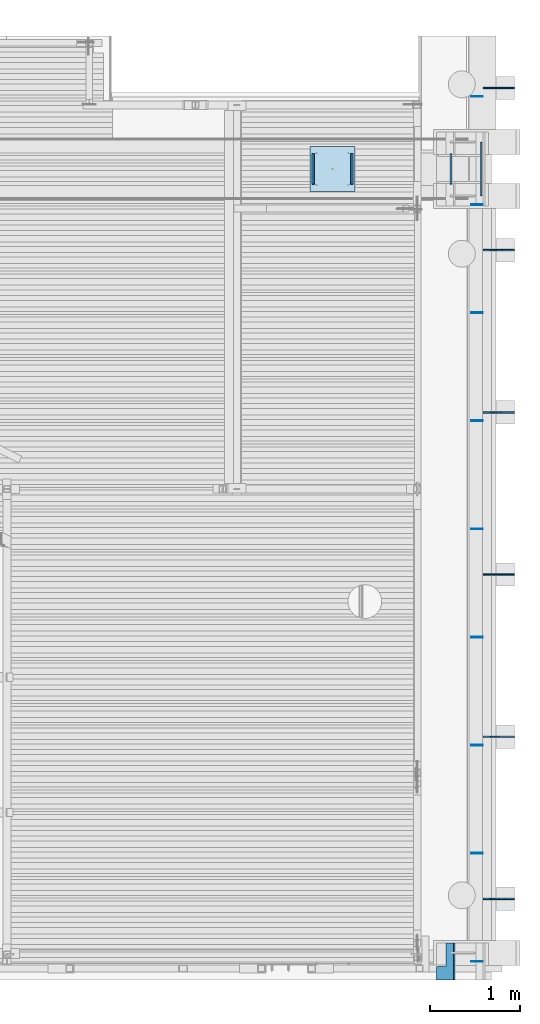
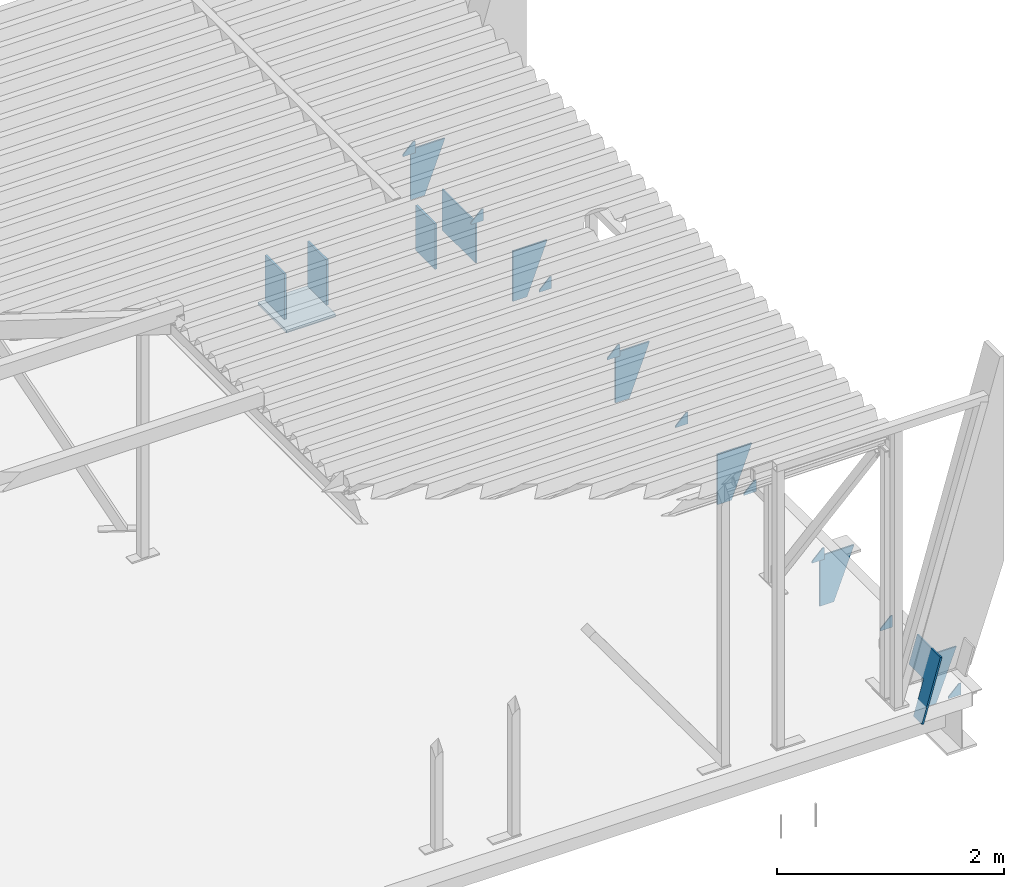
# One storey, part 30 of 30: 21 plates.
"""IFC2X3 building model written with IfcOpenShell, lengths in millimetres."""

import ifcopenshell
import ifcopenshell.guid

model = None  # the IFC model being written
_history = None  # IfcOwnerHistory: only IFC2X3 demands one
_inside = {}  # id of a spatial element -> (the spatial element, [elements in it])
_under = {}  # id of a project, library or spatial element -> (it, [spatial elements below it])
_declared = {}  # id of a project -> (the project, [libraries it declares])
_typed = {}  # id of a type object -> (the type object, [elements of that type])
_made_of = {}  # id of a material, layer set ... -> (it, [elements and type objects made of it])


def new_model(schema):
    """Start an empty IFC model of exactly this schema.

    Asked for "IFC4X3", IfcOpenShell would pick the latest addendum, in which some entities
    have other attributes; the version numbers below select the first issue.
    IFC2X3 requires an IfcOwnerHistory on every rooted entity: one is made here for all.
    """
    global model, _history
    if schema == "IFC4X3":
        model = ifcopenshell.file(schema_version=(4, 3, 0, 0))
    else:
        model = ifcopenshell.file(schema=schema)
    _inside.clear()
    _under.clear()
    _declared.clear()
    _typed.clear()
    _made_of.clear()
    _history = None
    if model.schema == "IFC2X3":
        org = make("IfcOrganization", Name="unknown")
        user = make(
            "IfcPersonAndOrganization",
            ThePerson=make("IfcPerson", FamilyName="unknown"),
            TheOrganization=org,
        )
        app = make(
            "IfcApplication",
            ApplicationDeveloper=org,
            Version="unknown",
            ApplicationFullName="unknown",
            ApplicationIdentifier="unknown",
        )
        _history = make(
            "IfcOwnerHistory",
            OwningUser=user,
            OwningApplication=app,
            ChangeAction="ADDED",
            CreationDate=0,
        )
    return model


def make(cls, **values):
    """One entity of the class cls with the attributes given. An attribute that is None is left unset."""
    return model.create_entity(
        cls, **{name: value for name, value in values.items() if value is not None}
    )


def entity(cls, *values):
    """Any entity or typed value of the class cls, its attributes in the order of the schema. None: left unset."""
    e = model.create_entity(cls)
    for i, value in enumerate(values):
        if value is not None:
            e[i] = value
    return e


def rooted(cls, **values):
    """An entity with a GlobalId (a new one), such as an element, a storey or a relation."""
    return make(cls, GlobalId=ifcopenshell.guid.new(), OwnerHistory=_history, **values)


def si_unit(unit_type, name, prefix=None):
    """IfcSIUnit, for example si_unit("LENGTHUNIT", "METRE", prefix="MILLI")."""
    return make("IfcSIUnit", UnitType=unit_type, Prefix=prefix, Name=name)


def converted_unit(unit_type, name, factor, base, dimensions=None, offset=None):
    """IfcConversionBasedUnit, such as the inch: factor (a typed value) times the base unit."""
    return make(
        "IfcConversionBasedUnit"
        if offset is None
        else "IfcConversionBasedUnitWithOffset",
        ConversionOffset=offset,
        Dimensions=None
        if dimensions is None
        else entity("IfcDimensionalExponents", *dimensions),
        UnitType=unit_type,
        Name=name,
        ConversionFactor=make(
            "IfcMeasureWithUnit", ValueComponent=factor, UnitComponent=base
        ),
    )


def derived_unit(unit_type, elements):
    """IfcDerivedUnit: a product of units, each with its exponent."""
    return make(
        "IfcDerivedUnit",
        Elements=[
            make("IfcDerivedUnitElement", Unit=unit, Exponent=power)
            for unit, power in elements
        ],
        UnitType=unit_type,
    )


def assignment(units):
    """IfcUnitAssignment: the units of a project."""
    return None if units is None else make("IfcUnitAssignment", Units=units)


def point(xyz):
    """IfcCartesianPoint."""
    return None if xyz is None else make("IfcCartesianPoint", Coordinates=xyz)


def direction(xyz):
    """IfcDirection."""
    return None if xyz is None else make("IfcDirection", DirectionRatios=xyz)


def frame(location, z_axis=None, x_axis=None):
    """IfcAxis2Placement3D, a coordinate frame: its origin and axes. An axis left out is left unset."""
    return make(
        "IfcAxis2Placement3D",
        Location=point(location),
        Axis=direction(z_axis),
        RefDirection=direction(x_axis),
    )


def origin_with_axes():
    """The frame at (0, 0, 0) with the z axis (0, 0, 1) and the x axis (1, 0, 0) written out."""
    return frame((0.0, 0.0, 0.0), z_axis=(0.0, 0.0, 1.0), x_axis=(1.0, 0.0, 0.0))


def place(relative_to, where):
    """IfcLocalPlacement: puts the frame where relative to a parent placement (None: the world)."""
    return make(
        "IfcLocalPlacement", PlacementRelTo=relative_to, RelativePlacement=where
    )


def context(
    kind, dimensions, precision=None, world=None, true_north=None, identifier=None
):
    """IfcGeometricRepresentationContext, for example the 3D "Model" context."""
    return make(
        "IfcGeometricRepresentationContext",
        ContextIdentifier=identifier,
        ContextType=kind,
        CoordinateSpaceDimension=dimensions,
        Precision=precision,
        WorldCoordinateSystem=world,
        TrueNorth=true_north,
    )


def subcontext(parent, identifier, kind, view, scale=None):
    """IfcGeometricRepresentationSubContext, for example "Body" below "Model"."""
    return make(
        "IfcGeometricRepresentationSubContext",
        ContextIdentifier=identifier,
        ContextType=kind,
        ParentContext=parent,
        TargetScale=scale,
        TargetView=view,
    )


def project(units=None, contexts=None):
    """IfcProject with its units and contexts."""
    return rooted(
        "IfcProject",
        Name="project",
        RepresentationContexts=contexts,
        UnitsInContext=assignment(units),
    )


def spatial(cls, under=None, at=None, **own):
    """A site, building, storey or space (cls), placed at a placement, below another one or the project."""
    s = rooted(cls, ObjectPlacement=at, **own)
    if under is not None:
        _under.setdefault(under.id(), (under, []))[1].append(s)
    return s


def faces_of(points, faces, orient=None, outer=None):
    """IfcFace entities. A face is a list of loops; a loop is a list of indices into points, from 0.

    orient and outer hold one flag for each loop. By default every Orientation is true, the
    first loop of a face is its IfcFaceOuterBound and the others are IfcFaceBound.
    """
    made = []
    for i, loops in enumerate(faces):
        bounds = []
        for j, loop in enumerate(loops):
            is_outer = j == 0 if outer is None else outer[i][j]
            bounds.append(
                make(
                    "IfcFaceOuterBound" if is_outer else "IfcFaceBound",
                    Bound=make("IfcPolyLoop", Polygon=[points[k] for k in loop]),
                    Orientation=True if orient is None else orient[i][j],
                )
            )
        made.append(make("IfcFace", Bounds=bounds))
    return made


def faceted_brep(points, faces, orient=None, outer=None, voids=None):
    """IfcFacetedBrep: a solid bounded by flat faces; with voids (closed shells), ...WithVoids."""
    shared = [point(p) for p in points]
    hull = make("IfcClosedShell", CfsFaces=faces_of(shared, faces, orient, outer))
    if voids is None:
        return make("IfcFacetedBrep", Outer=hull)
    return make(
        "IfcFacetedBrepWithVoids",
        Outer=hull,
        Voids=[
            make(cls, CfsFaces=faces_of(shared, fs, o, b)) for cls, fs, o, b in voids
        ],
    )


def shape(context_of_items, identifier, shape_type, items):
    """IfcShapeRepresentation: the items that make up one representation, for example the "Body"."""
    return make(
        "IfcShapeRepresentation",
        ContextOfItems=context_of_items,
        RepresentationIdentifier=identifier,
        RepresentationType=shape_type,
        Items=items,
    )


def material(Name=None, Category=None):
    """IfcMaterial."""
    return make("IfcMaterial", Name=Name, Category=Category)


def made_of(thing, what):
    """Note that an element or type object is made of a material, layer set ...; save() writes the relation."""
    if what is not None:
        _made_of.setdefault(what.id(), (what, []))[1].append(thing)
    return thing


def type_object(cls, material=None, **own):
    """A type object (cls), such as IfcWallType, which elements share."""
    return made_of(rooted(cls, **own), material)


def element(
    cls,
    number,
    at=None,
    inside=None,
    cuts=None,
    type_object=None,
    material=None,
    context=None,
    identifier="Body",
    shape_type=None,
    held_by="IfcProductDefinitionShape",
    body=None,
    shapes=None,
    **own,
):
    """One element of the class cls, such as IfcWall. Its Tag is "e" and its number.

    at: its placement. inside: the storey or other place that contains it. cuts: it is an
    opening in that element (IfcRelVoidsElement). A single representation is given by context,
    identifier, shape_type and body (its items); several are given by shapes. held_by: the class
    of the entity that holds the representations. save() writes the other relations.
    """
    e = rooted(cls, Tag="e%d" % number, ObjectPlacement=at, **own)
    if body is not None:
        shapes = [shape(context, identifier, shape_type, body)]
    if shapes is not None:
        e.Representation = make(held_by, Representations=shapes)
    if inside is not None:
        _inside.setdefault(inside.id(), (inside, []))[1].append(e)
    if cuts is not None:
        rooted(
            "IfcRelVoidsElement", RelatingBuildingElement=cuts, RelatedOpeningElement=e
        )
    if type_object is not None:
        _typed.setdefault(type_object.id(), (type_object, []))[1].append(e)
    return made_of(e, material)


def aggregate(whole, parts):
    """IfcRelAggregates: a whole, such as a stair, and the parts it consists of."""
    return rooted("IfcRelAggregates", RelatingObject=whole, RelatedObjects=parts)


def save(model, path):
    """Write the relations noted so far, then the file.

    IfcRelAggregates (storeys below a building ...), IfcRelContainedInSpatialStructure (elements
    in a storey), IfcRelDefinesByType, IfcRelAssociatesMaterial and IfcRelDeclares: one each for
    every whole, place, type object, material and project.
    """
    for whole, parts in _under.values():
        aggregate(whole, parts)
    for where, things in _inside.values():
        rooted(
            "IfcRelContainedInSpatialStructure",
            RelatedElements=things,
            RelatingStructure=where,
        )
    for kind, things in _typed.values():
        rooted("IfcRelDefinesByType", RelatedObjects=things, RelatingType=kind)
    for what, things in _made_of.values():
        rooted("IfcRelAssociatesMaterial", RelatedObjects=things, RelatingMaterial=what)
    for by, libraries in _declared.values():
        rooted("IfcRelDeclares", RelatingContext=by, RelatedDefinitions=libraries)
    model.write(path)


model = new_model("IFC2X3")

# Units and contexts
model_context = context("Model", 3, precision=0.01, world=frame((0.0, 4.29681676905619e-09, 0.0)), true_north=direction((4.01073788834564e-13, 1.0)))
plan_context = context("Plan", 3, precision=0.01, world=frame((0.0, 4.29681676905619e-09, 0.0)), true_north=direction((4.01073788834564e-13, 1.0)))
body_context = subcontext(model_context, "Body", "Model", "MODEL_VIEW")
ifc_project = project(units=[converted_unit("PLANEANGLEUNIT", "DEGREE", entity("IfcPositiveLengthMeasure", 0.0174532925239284), si_unit("PLANEANGLEUNIT", "RADIAN"), dimensions=[0, 0, 0, 0, 0, 0, 0]), si_unit("AREAUNIT", "SQUARE_METRE"), si_unit("LENGTHUNIT", "METRE", prefix="MILLI"), si_unit("MASSUNIT", "GRAM", prefix="KILO"), si_unit("POWERUNIT", "WATT"), si_unit("PRESSUREUNIT", "PASCAL"), si_unit("FORCEUNIT", "NEWTON", prefix="KILO"), si_unit("ELECTRICVOLTAGEUNIT", "VOLT"), si_unit("ELECTRICCURRENTUNIT", "AMPERE"), si_unit("THERMODYNAMICTEMPERATUREUNIT", "DEGREE_CELSIUS"), si_unit("TIMEUNIT", "SECOND"), si_unit("VOLUMEUNIT", "CUBIC_METRE"), derived_unit("LINEARVELOCITYUNIT", [(si_unit("LENGTHUNIT", "METRE"), 1), (si_unit("TIMEUNIT", "SECOND"), -1)]), derived_unit("VOLUMETRICFLOWRATEUNIT", [(si_unit("VOLUMEUNIT", "CUBIC_METRE"), 1), (si_unit("TIMEUNIT", "SECOND"), -1)]), derived_unit("THERMALTRANSMITTANCEUNIT", [(si_unit("POWERUNIT", "WATT"), 1), (si_unit("THERMODYNAMICTEMPERATUREUNIT", "KELVIN"), -1), (si_unit("AREAUNIT", "SQUARE_METRE"), -1)]), derived_unit("SOUNDPRESSUREUNIT", [(si_unit("PRESSUREUNIT", "PASCAL"), 1)])], contexts=[model_context, plan_context])

# Site, building, storey
site_placement = place(None, frame((0.0, -4.29681676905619e-09, 0.0), z_axis=(0.0, 0.0, 1.0), x_axis=(1.0, 0.0, 0.0)))
site = spatial("IfcSite", under=ifc_project, at=site_placement, Name="Gardermoen", CompositionType="ELEMENT")
building_placement = place(site_placement, frame((0.0, 4.29681676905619e-09, 0.0), z_axis=(0.0, 0.0, 1.0), x_axis=(1.0, 0.0, 0.0)))
building = spatial("IfcBuilding", under=site, at=building_placement, Name="TI", CompositionType="ELEMENT")
storey_placement = place(building_placement, origin_with_axes())
storey = spatial("IfcBuildingStorey", under=building, at=storey_placement, Name="F", CompositionType="ELEMENT", Elevation=0.0)

# Plates
plate_type_1 = type_object("IfcPlateType", Name="PL20*683", PredefinedType="NOTDEFINED")
plate_1_placement = place(storey_placement, frame((611700.659906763, 689409.760836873, 211314.494570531), z_axis=(-0.276515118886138, 0.0, -0.961009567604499), x_axis=(0.0, -1.0, 0.0)))
element("IfcPlate", 1, at=plate_1_placement, inside=storey, type_object=plate_type_1, Name="STÅLSØYLE", ObjectType="PL20*683", context=body_context, shape_type="Brep", body=[
    faceted_brep([(0.0, 10.0, -1.16415321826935e-10), (0.100000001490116, 9.99999999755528, 302.680480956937), (0.100000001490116, -10.0000000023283, 302.680480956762), (0.0, -10.0, -1.16415321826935e-10), (260.0, 9.99999999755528, 302.680480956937), (260.0, -10.0000000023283, 302.680480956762), (260.0, 10.0000000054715, 683.373901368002), (260.0, -9.9999999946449, 683.373901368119), (409.760836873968, 10.0000000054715, 683.373901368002), (409.760836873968, -9.9999999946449, 683.373901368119), (409.760836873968, -10.0000000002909, -6.55133282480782e-11), (409.760836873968, 10.0000000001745, -6.55133282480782e-11)], [[[0, 1, 2, 3]], [[1, 4, 5, 2]], [[4, 6, 7, 5]], [[8, 9, 7, 6]], [[10, 11, 0, 3]], [[11, 8, 6, 4, 1, 0]], [[9, 10, 3, 2, 5, 7]], [[11, 10, 9, 8]]], orient=[[False], [False], [False], [False], [False], [False], [False], [False]]),
])
ifc_material = material(Name="STEEL/S355")
plate_type_2 = type_object("IfcPlateType", Name="PL15*350", PredefinedType="NOTDEFINED")
for number, where, z_axis, x_axis in (
    (2, (612165.0, 698899.957275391, 210115.0), (0.0, 0.0, 1.0), (-0.999999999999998, 5.80000057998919e-08, 0.0)),
    (3, (612165.0, 697100.030517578, 210115.0), (0.0, 0.0, 1.0), (-0.999999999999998, 5.80000057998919e-08, 0.0)),
    (4, (612165.0, 695299.974060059, 210115.0), (0.0, 0.0, 1.0), (-0.999999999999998, 5.80000057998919e-08, 0.0)),
    (5, (612165.0, 693500.047302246, 210115.0), (0.0, 0.0, 1.0), (-0.999999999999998, 5.80000057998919e-08, 0.0)),
    (6, (612165.0, 691699.998474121, 210115.0), (0.0, 0.0, 1.0), (-0.999999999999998, 5.80000057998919e-08, 0.0)),
    (7, (612165.0, 689899.949645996, 210115.0), (0.0, 0.0, 1.0), (-0.999999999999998, 5.80000057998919e-08, 0.0)),
):
    element("IfcPlate", number, at=place(storey_placement, frame(where, z_axis=z_axis, x_axis=x_axis)), inside=storey, type_object=plate_type_2, material=ifc_material, Name="STÅLBJELKE", ObjectType="PL15*350", context=body_context, shape_type="Brep", body=[
        faceted_brep([(0.0, -7.5, 0.0), (-206.026977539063, -7.5, 540.002197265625), (-206.026977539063, 7.5, 540.002197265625), (0.0, 7.5, 0.0), (143.5, -7.5, 540.0), (143.5, 7.5, 540.0), (143.5, -7.5, 0.0), (143.5, 7.5, 0.0)], [[[0, 1, 2, 3]], [[1, 4, 5, 2]], [[4, 6, 7, 5]], [[6, 0, 3, 7]], [[5, 7, 3, 2]], [[6, 4, 1, 0]]]),
    ])
plate_type_3 = type_object("IfcPlateType", Name="PL10*125", PredefinedType="NOTDEFINED")
for number, where, z_axis, x_axis in (
    (8, (611889.999766, 689204.98, 210700.0), (1.0, 0.0, 0.0), (0.0, 0.0, -1.0)),
    (9, (611889.999766, 690404.98, 210700.0), (1.0, 0.0, 0.0), (0.0, 0.0, -1.0)),
    (10, (611889.999766, 691604.98, 210700.0), (1.0, 0.0, 0.0), (0.0, 0.0, -1.0)),
    (11, (611889.999766, 692804.98, 210700.0), (1.0, 0.0, 0.0), (0.0, 0.0, -1.0)),
    (12, (611889.999766, 694004.98, 210700.0), (1.0, 0.0, 0.0), (0.0, 0.0, -1.0)),
    (13, (611889.999766, 695204.98, 210700.0), (1.0, 0.0, 0.0), (0.0, 0.0, -1.0)),
    (14, (611889.999766, 696404.98, 210700.0), (1.0, 0.0, 0.0), (0.0, 0.0, -1.0)),
    (15, (611889.999766, 697604.98, 210700.0), (1.0, 0.0, 0.0), (0.0, 0.0, -1.0)),
    (16, (611889.999766, 698804.98, 210700.0), (1.0, 0.0, 0.0), (0.0, 0.0, -1.0)),
):
    element("IfcPlate", number, at=place(storey_placement, frame(where, z_axis=z_axis, x_axis=x_axis)), inside=storey, type_object=plate_type_3, material=ifc_material, Name="STÅLBJELKE", ObjectType="PL10*125", context=body_context, shape_type="Brep", body=[
        faceted_brep([(0.0, -5.0, 0.0), (-105.000000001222, -5.0, 105.000244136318), (-105.000000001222, 5.0, 105.000244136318), (0.0, 5.0, 0.0), (-105.000000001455, -5.0, 125.001541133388), (-105.000000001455, 5.0, 125.001541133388), (19.9999980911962, -5.0, 125.002502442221), (19.9999980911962, 5.0, 125.002502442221), (19.9999999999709, -5.0, -6.98491930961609e-10), (19.9999999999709, 5.0, -5.82076609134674e-10)], [[[0, 1, 2, 3]], [[1, 4, 5, 2]], [[4, 6, 7, 5]], [[6, 8, 9, 7]], [[8, 0, 3, 9]], [[5, 7, 9, 3, 2]], [[8, 6, 4, 1, 0]]]),
    ])
plate_type_4 = type_object("IfcPlateType", Name="PL15*440", PredefinedType="NOTDEFINED")
plate_2_placement = place(storey_placement, frame((612001.000061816, 697704.999866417, 210165.0), z_axis=(0.0, 0.0, 1.0), x_axis=(0.0, 1.0, 0.0)))
element("IfcPlate", 17, at=plate_2_placement, inside=storey, type_object=plate_type_4, material=ifc_material, Name="STÅLBJELKE", ObjectType="PL15*440", context=body_context, shape_type="Brep", body=[
    faceted_brep([(0.0, -7.5, 0.0), (-4.65661287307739e-10, -7.49999999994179, 440.0), (1.16415321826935e-10, 7.49999999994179, 440.0), (0.0, 7.5, 0.0), (590.0, -7.5, 440.0), (590.0, 7.5, 440.0), (590.0, -7.5, 0.0), (590.0, 7.5, 0.0)], [[[0, 1, 2, 3]], [[1, 4, 5, 2]], [[4, 6, 7, 5]], [[6, 0, 3, 7]], [[5, 7, 3, 2]], [[6, 4, 1, 0]]]),
])
plate_type_5 = type_object("IfcPlateType", Name="PL20*340", PredefinedType="NOTDEFINED")
for number, where, z_axis, x_axis in (
    (18, (610135.0, 697829.995625, 210140.0), (0.0, 0.0, 1.0), (0.0, 1.0, 0.0)),
    (19, (610565.0, 697829.995625, 210140.0), (0.0, 0.0, 1.0), (0.0, 1.0, 0.0)),
    (20, (611665.0, 697829.995625, 210140.0), (0.0, 0.0, 1.0), (0.0, 1.0, 0.0)),
):
    element("IfcPlate", number, at=place(storey_placement, frame(where, z_axis=z_axis, x_axis=x_axis)), inside=storey, type_object=plate_type_5, material=ifc_material, Name="STÅLBJELKE", ObjectType="PL20*340", context=body_context, shape_type="Brep", body=[
        faceted_brep([(0.0, -10.0, -1.16415321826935e-10), (0.0, -10.0, 485.0), (0.0, 10.0, 485.0), (0.0, 10.0, -1.16415321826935e-10), (340.0, -10.0, 485.0), (340.0, 10.0, 485.0), (340.0, -10.0, 0.0), (340.0, 10.0, 0.0)], [[[0, 1, 2, 3]], [[1, 4, 5, 2]], [[4, 6, 7, 5]], [[6, 0, 3, 7]], [[5, 7, 3, 2]], [[6, 4, 1, 0]]]),
    ])
plate_type_6 = type_object("IfcPlateType", Name="PL30*500", PredefinedType="NOTDEFINED")
plate_3_placement = place(storey_placement, frame((610099.999766, 697749.995625, 210065.0), z_axis=(0.0, 1.0, 0.0), x_axis=(1.0, 0.0, 0.0)))
element("IfcPlate", 21, at=plate_3_placement, inside=storey, type_object=plate_type_6, material=ifc_material, Name="INNSTØPNGODS", ObjectType="PL30*500", context=body_context, shape_type="Brep", body=[
    faceted_brep([(-1.74622982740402e-10, -15.0, 4.07453626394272e-10), (0.0, -15.0, 500.0), (0.0, 15.0, 500.0), (1.45519152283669e-10, 14.9999999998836, -4.07453626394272e-10), (500.0, -15.0, 500.0), (500.0, 15.0, 500.0), (499.999999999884, -15.0000000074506, -2.49710865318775e-08), (500.000000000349, 14.9999999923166, -2.49710865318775e-08)], [[[0, 1, 2, 3]], [[1, 4, 5, 2]], [[4, 6, 7, 5]], [[6, 0, 3, 7]], [[5, 7, 3, 2]], [[6, 4, 1, 0]]]),
])

save(model, "model.ifc")
